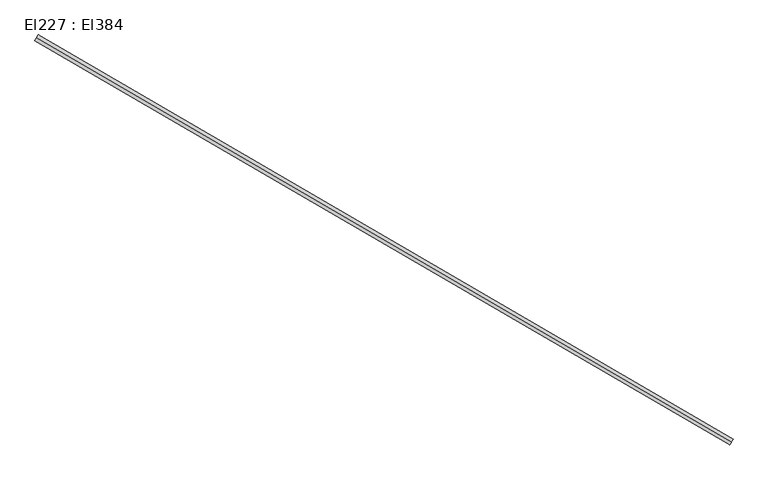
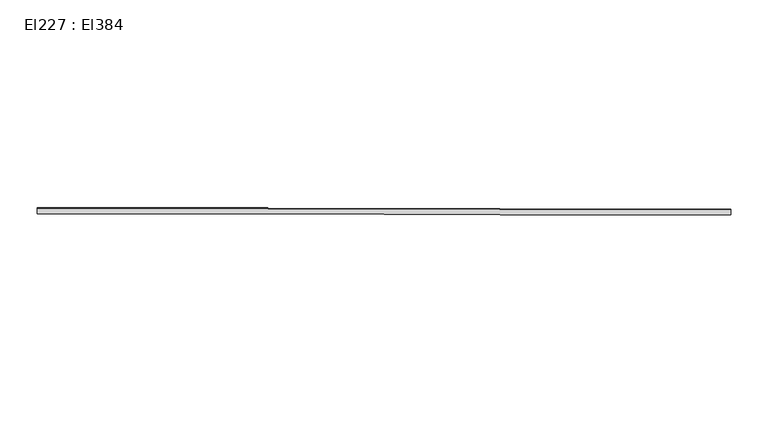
"""IFC4 building model written with IfcOpenShell, lengths in millimetres: cable carrier segment geometry, El227 : El384."""

import ifcopenshell
import ifcopenshell.guid

model = None  # the IFC model being written
_history = None  # IfcOwnerHistory: only IFC2X3 demands one
_inside = {}  # id of a spatial element -> (the spatial element, [elements in it])
_under = {}  # id of a project, library or spatial element -> (it, [spatial elements below it])
_declared = {}  # id of a project -> (the project, [libraries it declares])
_typed = {}  # id of a type object -> (the type object, [elements of that type])
_made_of = {}  # id of a material, layer set ... -> (it, [elements and type objects made of it])


def new_model(schema):
    """Start an empty IFC model of exactly this schema.

    Asked for "IFC4X3", IfcOpenShell would pick the latest addendum, in which some entities
    have other attributes; the version numbers below select the first issue.
    IFC2X3 requires an IfcOwnerHistory on every rooted entity: one is made here for all.
    """
    global model, _history
    if schema == "IFC4X3":
        model = ifcopenshell.file(schema_version=(4, 3, 0, 0))
    else:
        model = ifcopenshell.file(schema=schema)
    _inside.clear()
    _under.clear()
    _declared.clear()
    _typed.clear()
    _made_of.clear()
    _history = None
    if model.schema == "IFC2X3":
        org = make("IfcOrganization", Name="unknown")
        user = make(
            "IfcPersonAndOrganization",
            ThePerson=make("IfcPerson", FamilyName="unknown"),
            TheOrganization=org,
        )
        app = make(
            "IfcApplication",
            ApplicationDeveloper=org,
            Version="unknown",
            ApplicationFullName="unknown",
            ApplicationIdentifier="unknown",
        )
        _history = make(
            "IfcOwnerHistory",
            OwningUser=user,
            OwningApplication=app,
            ChangeAction="ADDED",
            CreationDate=0,
        )
    return model


def make(cls, **values):
    """One entity of the class cls with the attributes given. An attribute that is None is left unset."""
    return model.create_entity(
        cls, **{name: value for name, value in values.items() if value is not None}
    )


def rooted(cls, **values):
    """An entity with a GlobalId (a new one), such as an element, a storey or a relation."""
    return make(cls, GlobalId=ifcopenshell.guid.new(), OwnerHistory=_history, **values)


def si_unit(unit_type, name, prefix=None):
    """IfcSIUnit, for example si_unit("LENGTHUNIT", "METRE", prefix="MILLI")."""
    return make("IfcSIUnit", UnitType=unit_type, Prefix=prefix, Name=name)


def assignment(units):
    """IfcUnitAssignment: the units of a project."""
    return None if units is None else make("IfcUnitAssignment", Units=units)


def point(xyz):
    """IfcCartesianPoint."""
    return None if xyz is None else make("IfcCartesianPoint", Coordinates=xyz)


def direction(xyz):
    """IfcDirection."""
    return None if xyz is None else make("IfcDirection", DirectionRatios=xyz)


def frame(location, z_axis=None, x_axis=None):
    """IfcAxis2Placement3D, a coordinate frame: its origin and axes. An axis left out is left unset."""
    return make(
        "IfcAxis2Placement3D",
        Location=point(location),
        Axis=direction(z_axis),
        RefDirection=direction(x_axis),
    )


def frame_2d(location, x_axis=None):
    """IfcAxis2Placement2D, a coordinate frame in the plane: its origin and x axis."""
    return make(
        "IfcAxis2Placement2D", Location=point(location), RefDirection=direction(x_axis)
    )


def origin():
    """The frame at (0, 0, 0) with its axes left unset."""
    return frame((0.0, 0.0, 0.0))


def place(relative_to, where):
    """IfcLocalPlacement: puts the frame where relative to a parent placement (None: the world)."""
    return make(
        "IfcLocalPlacement", PlacementRelTo=relative_to, RelativePlacement=where
    )


def context(
    kind, dimensions, precision=None, world=None, true_north=None, identifier=None
):
    """IfcGeometricRepresentationContext, for example the 3D "Model" context."""
    return make(
        "IfcGeometricRepresentationContext",
        ContextIdentifier=identifier,
        ContextType=kind,
        CoordinateSpaceDimension=dimensions,
        Precision=precision,
        WorldCoordinateSystem=world,
        TrueNorth=true_north,
    )


def project(units=None, contexts=None):
    """IfcProject with its units and contexts."""
    return rooted(
        "IfcProject",
        Name="project",
        RepresentationContexts=contexts,
        UnitsInContext=assignment(units),
    )


def spatial(cls, under=None, at=None, **own):
    """A site, building, storey or space (cls), placed at a placement, below another one or the project."""
    s = rooted(cls, ObjectPlacement=at, **own)
    if under is not None:
        _under.setdefault(under.id(), (under, []))[1].append(s)
    return s


def circle_curve(where, radius):
    """IfcCircle in the frame where."""
    return make("IfcCircle", Position=where, Radius=radius)


def trimmed(basis, trim1, trim2, sense, master):
    """IfcTrimmedCurve: the piece of a basis curve between two trims."""
    return make(
        "IfcTrimmedCurve",
        BasisCurve=basis,
        Trim1=trim1,
        Trim2=trim2,
        SenseAgreement=sense,
        MasterRepresentation=master,
    )


def segment(curve, same_sense, transition):
    """IfcCompositeCurveSegment."""
    return make(
        "IfcCompositeCurveSegment",
        Transition=transition,
        SameSense=same_sense,
        ParentCurve=curve,
    )


def composite_curve(segments, self_intersect=None):
    """IfcCompositeCurve: segments joined end to end."""
    return make("IfcCompositeCurve", Segments=segments, SelfIntersect=self_intersect)


def outline(outer, holes=None, kind="AREA"):
    """IfcArbitraryClosedProfileDef: a profile drawn as a closed curve; with holes, ...WithVoids."""
    if holes is None:
        return make("IfcArbitraryClosedProfileDef", ProfileType=kind, OuterCurve=outer)
    return make(
        "IfcArbitraryProfileDefWithVoids",
        ProfileType=kind,
        OuterCurve=outer,
        InnerCurves=holes,
    )


def extrude(swept, where, along, depth):
    """IfcExtrudedAreaSolid: the profile swept, set in the frame where, extruded along a direction by depth."""
    return make(
        "IfcExtrudedAreaSolid",
        SweptArea=swept,
        Position=where,
        ExtrudedDirection=direction(along),
        Depth=depth,
    )


def shape(context_of_items, identifier, shape_type, items):
    """IfcShapeRepresentation: the items that make up one representation, for example the "Body"."""
    return make(
        "IfcShapeRepresentation",
        ContextOfItems=context_of_items,
        RepresentationIdentifier=identifier,
        RepresentationType=shape_type,
        Items=items,
    )


def source(mapping_origin, context_of_items, identifier, shape_type, items):
    """IfcRepresentationMap: a shape defined once, which mapped items show again and again."""
    return make(
        "IfcRepresentationMap",
        MappingOrigin=mapping_origin,
        MappedRepresentation=shape(context_of_items, identifier, shape_type, items),
    )


def transform(
    local_origin,
    x_axis=None,
    y_axis=None,
    z_axis=None,
    scale=None,
    scale2=None,
    scale3=None,
    uniform=True,
):
    """IfcCartesianTransformationOperator3D, or its non-uniform kind. x_axis, y_axis, z_axis: its Axis1, 2, 3."""
    if uniform:
        return make(
            "IfcCartesianTransformationOperator3D",
            Axis1=direction(x_axis),
            Axis2=direction(y_axis),
            LocalOrigin=point(local_origin),
            Scale=scale,
            Axis3=direction(z_axis),
        )
    return make(
        "IfcCartesianTransformationOperator3DnonUniform",
        Axis1=direction(x_axis),
        Axis2=direction(y_axis),
        LocalOrigin=point(local_origin),
        Scale=scale,
        Axis3=direction(z_axis),
        Scale2=scale2,
        Scale3=scale3,
    )


def mapped(mapping_source, mapping_target):
    """IfcMappedItem: shows the shape of a source again, moved by a transform."""
    return make(
        "IfcMappedItem", MappingSource=mapping_source, MappingTarget=mapping_target
    )


def made_of(thing, what):
    """Note that an element or type object is made of a material, layer set ...; save() writes the relation."""
    if what is not None:
        _made_of.setdefault(what.id(), (what, []))[1].append(thing)
    return thing


def element(
    cls,
    number,
    at=None,
    inside=None,
    cuts=None,
    type_object=None,
    material=None,
    context=None,
    identifier="Body",
    shape_type=None,
    held_by="IfcProductDefinitionShape",
    body=None,
    shapes=None,
    **own,
):
    """One element of the class cls, such as IfcWall. Its Tag is "e" and its number.

    at: its placement. inside: the storey or other place that contains it. cuts: it is an
    opening in that element (IfcRelVoidsElement). A single representation is given by context,
    identifier, shape_type and body (its items); several are given by shapes. held_by: the class
    of the entity that holds the representations. save() writes the other relations.
    """
    e = rooted(cls, Tag="e%d" % number, ObjectPlacement=at, **own)
    if body is not None:
        shapes = [shape(context, identifier, shape_type, body)]
    if shapes is not None:
        e.Representation = make(held_by, Representations=shapes)
    if inside is not None:
        _inside.setdefault(inside.id(), (inside, []))[1].append(e)
    if cuts is not None:
        rooted(
            "IfcRelVoidsElement", RelatingBuildingElement=cuts, RelatedOpeningElement=e
        )
    if type_object is not None:
        _typed.setdefault(type_object.id(), (type_object, []))[1].append(e)
    return made_of(e, material)


def aggregate(whole, parts):
    """IfcRelAggregates: a whole, such as a stair, and the parts it consists of."""
    return rooted("IfcRelAggregates", RelatingObject=whole, RelatedObjects=parts)


def save(model, path):
    """Write the relations noted so far, then the file.

    IfcRelAggregates (storeys below a building ...), IfcRelContainedInSpatialStructure (elements
    in a storey), IfcRelDefinesByType, IfcRelAssociatesMaterial and IfcRelDeclares: one each for
    every whole, place, type object, material and project.
    """
    for whole, parts in _under.values():
        aggregate(whole, parts)
    for where, things in _inside.values():
        rooted(
            "IfcRelContainedInSpatialStructure",
            RelatedElements=things,
            RelatingStructure=where,
        )
    for kind, things in _typed.values():
        rooted("IfcRelDefinesByType", RelatedObjects=things, RelatingType=kind)
    for what, things in _made_of.values():
        rooted("IfcRelAssociatesMaterial", RelatedObjects=things, RelatingMaterial=what)
    for by, libraries in _declared.values():
        rooted("IfcRelDeclares", RelatingContext=by, RelatedDefinitions=libraries)
    model.write(path)


def el227_el384_02478b61(model_context):
    return source(origin(), model_context, "Body", "SweptSolid", [
        extrude(outline(composite_curve([segment(trimmed(circle_curve(frame_2d((0.0, -9.5)), 9.5), [point((0.0, -19.0))], [point((0.0, 0.0))], False, "CARTESIAN"), True, "CONTINUOUS"), segment(trimmed(circle_curve(frame_2d((0.0, -9.5)), 9.5), [point((0.0, 0.0))], [point((0.0, -19.0))], False, "CARTESIAN"), True, "CONTINUOUS")], self_intersect=False)), frame((9843.7594918, 12785.7485497, 1509.5), z_axis=(-0.8643899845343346, 0.5028219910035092, 0.0), x_axis=(-0.5028219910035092, -0.8643899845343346, 0.0)), (0.0, 0.0, 1.0), 2325.53),
    ])


if __name__ == "__main__":
    model = new_model("IFC4")
    model_context = context("Model", 3, world=origin())
    ifc_project = project(units=[si_unit("LENGTHUNIT", "METRE", prefix="MILLI")], contexts=[model_context])
    site = spatial("IfcSite", under=ifc_project)
    building = spatial("IfcBuilding", under=site)
    placement = place(None, origin())
    el227_el384_shape = el227_el384_02478b61(model_context)
    element("IfcCableCarrierSegment", 1, ObjectType="El227 : El384", at=placement, inside=building, context=model_context, shape_type="MappedRepresentation", body=[
        mapped(el227_el384_shape, transform((0.0, 0.0, 0.0), x_axis=(1.0, 0.0, 0.0), y_axis=(0.0, 1.0, 0.0), z_axis=(0.0, 0.0, 1.0))),
    ])
    save(model, "model.ifc")
